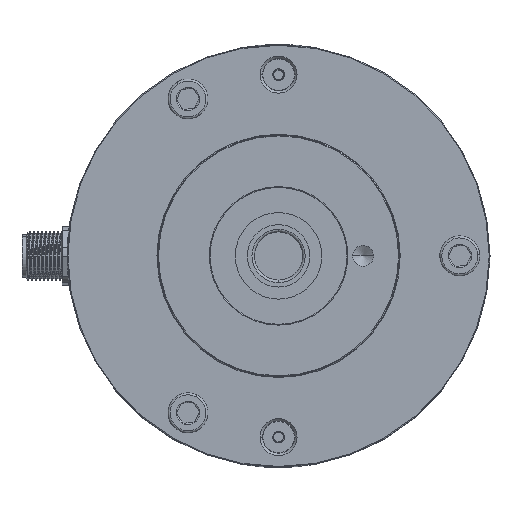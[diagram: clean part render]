
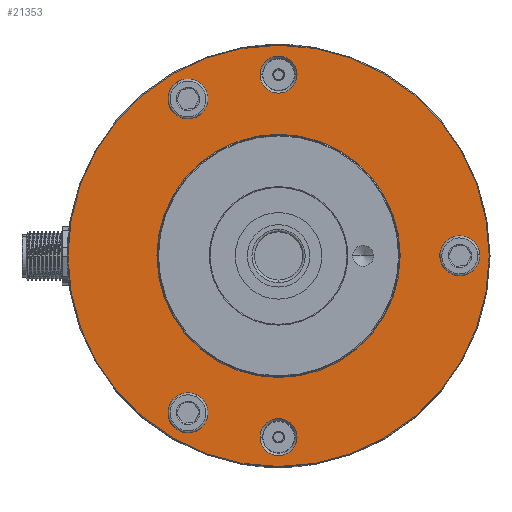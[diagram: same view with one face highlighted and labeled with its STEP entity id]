
A CAD part, top view. The second image highlights one B-rep face of the part: STEP entity #21353.
In plain terms, the highlighted planar face has unit normal (0, 0, 1).
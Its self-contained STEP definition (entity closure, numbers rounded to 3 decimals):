
#2265 = EDGE_LOOP ( 'NONE', ( #2951, #3146 ) ) ;
#2924 = ORIENTED_EDGE ( 'NONE', *, *, #14646, .T. ) ;
#2926 = ORIENTED_EDGE ( 'NONE', *, *, #9297, .T. ) ;
#2951 = ORIENTED_EDGE ( 'NONE', *, *, #14624, .T. ) ;
#3130 = ORIENTED_EDGE ( 'NONE', *, *, #9296, .T. ) ;
#3146 = ORIENTED_EDGE ( 'NONE', *, *, #9298, .T. ) ;
#3161 = ORIENTED_EDGE ( 'NONE', *, *, #14648, .T. ) ;
#3284 = ORIENTED_EDGE ( 'NONE', *, *, #14651, .T. ) ;
#3290 = ORIENTED_EDGE ( 'NONE', *, *, #14623, .T. ) ;
#3725 = CIRCLE ( 'NONE', #23338, 4.59 ) ;
#3729 = CIRCLE ( 'NONE', #23339, 4.59 ) ;
#3730 = CIRCLE ( 'NONE', #23340, 52.3 ) ;
#3733 = CIRCLE ( 'NONE', #23341, 30.2 ) ;
#3734 = CIRCLE ( 'NONE', #23342, 3.3 ) ;
#3736 = CIRCLE ( 'NONE', #23343, 3.3 ) ;
#7051 = CARTESIAN_POINT ( 'NONE',  ( -30.2, 0., -3. ) ) ;
#7052 = CARTESIAN_POINT ( 'NONE',  ( 4.59, -45., -3. ) ) ;
#7054 = CARTESIAN_POINT ( 'NONE',  ( 30.2, 0., -3. ) ) ;
#7055 = CARTESIAN_POINT ( 'NONE',  ( -19.2, 38.971, -3. ) ) ;
#7061 = CARTESIAN_POINT ( 'NONE',  ( -19.2, -38.971, -3. ) ) ;
#7063 = CARTESIAN_POINT ( 'NONE',  ( -25.8, 38.971, -3. ) ) ;
#7068 = CARTESIAN_POINT ( 'NONE',  ( 52.3, 0., -3. ) ) ;
#7069 = CARTESIAN_POINT ( 'NONE',  ( -25.8, -38.971, -3. ) ) ;
#7079 = CARTESIAN_POINT ( 'NONE',  ( 41.7, 0., -3. ) ) ;
#7087 = CARTESIAN_POINT ( 'NONE',  ( -4.59, -45., -3. ) ) ;
#7091 = CARTESIAN_POINT ( 'NONE',  ( -52.3, 0., -3. ) ) ;
#7113 = CARTESIAN_POINT ( 'NONE',  ( 48.3, 0., -3. ) ) ;
#7520 = CARTESIAN_POINT ( 'NONE',  ( 0., 45., -3. ) ) ;
#7521 = DIRECTION ( 'NONE',  ( 0., 0., 1. ) ) ;
#7523 = DIRECTION ( 'NONE',  ( 1., 0., 0. ) ) ;
#7525 = CARTESIAN_POINT ( 'NONE',  ( 0., -45., -3. ) ) ;
#7526 = DIRECTION ( 'NONE',  ( 0., 0., 1. ) ) ;
#7527 = DIRECTION ( 'NONE',  ( 1., 0., 0. ) ) ;
#7529 = CARTESIAN_POINT ( 'NONE',  ( 0., 0., -3. ) ) ;
#7530 = DIRECTION ( 'NONE',  ( 0., 0., 1. ) ) ;
#7531 = DIRECTION ( 'NONE',  ( -1., 0., 0. ) ) ;
#7534 = CARTESIAN_POINT ( 'NONE',  ( 0., 0., -3. ) ) ;
#7535 = DIRECTION ( 'NONE',  ( 0., 0., -1. ) ) ;
#7536 = DIRECTION ( 'NONE',  ( -1., 0., 0. ) ) ;
#7537 = CARTESIAN_POINT ( 'NONE',  ( 45., 0., -3. ) ) ;
#7538 = DIRECTION ( 'NONE',  ( 0., 0., -1. ) ) ;
#7539 = DIRECTION ( 'NONE',  ( -1., 0., 0. ) ) ;
#7540 = CARTESIAN_POINT ( 'NONE',  ( -22.5, 38.971, -3. ) ) ;
#7541 = DIRECTION ( 'NONE',  ( 0., 0., -1. ) ) ;
#7542 = DIRECTION ( 'NONE',  ( -1., 0., 0. ) ) ;
#9009 = VERTEX_POINT ( 'NONE', #7051 ) ;
#9010 = VERTEX_POINT ( 'NONE', #7052 ) ;
#9012 = VERTEX_POINT ( 'NONE', #7054 ) ;
#9014 = VERTEX_POINT ( 'NONE', #7055 ) ;
#9021 = VERTEX_POINT ( 'NONE', #7061 ) ;
#9025 = VERTEX_POINT ( 'NONE', #7063 ) ;
#9032 = VERTEX_POINT ( 'NONE', #7068 ) ;
#9034 = VERTEX_POINT ( 'NONE', #7069 ) ;
#9103 = VERTEX_POINT ( 'NONE', #7079 ) ;
#9108 = VERTEX_POINT ( 'NONE', #7087 ) ;
#9124 = VERTEX_POINT ( 'NONE', #7091 ) ;
#9180 = VERTEX_POINT ( 'NONE', #7113 ) ;
#9291 = EDGE_CURVE ( 'NONE', #12746, #12754, #3725, .T. ) ;
#9293 = EDGE_CURVE ( 'NONE', #9010, #9108, #3729, .T. ) ;
#9294 = EDGE_CURVE ( 'NONE', #9124, #9032, #3730, .T. ) ;
#9296 = EDGE_CURVE ( 'NONE', #9009, #9012, #3733, .T. ) ;
#9297 = EDGE_CURVE ( 'NONE', #9103, #9180, #3734, .T. ) ;
#9298 = EDGE_CURVE ( 'NONE', #9025, #9014, #3736, .T. ) ;
#10480 = EDGE_LOOP ( 'NONE', ( #12647, #12778 ) ) ;
#10519 = EDGE_LOOP ( 'NONE', ( #12786, #12565 ) ) ;
#12565 = ORIENTED_EDGE ( 'NONE', *, *, #14626, .T. ) ;
#12647 = ORIENTED_EDGE ( 'NONE', *, *, #9291, .F. ) ;
#12677 = ORIENTED_EDGE ( 'NONE', *, *, #14596, .F. ) ;
#12746 = VERTEX_POINT ( 'NONE', #16590 ) ;
#12754 = VERTEX_POINT ( 'NONE', #16583 ) ;
#12778 = ORIENTED_EDGE ( 'NONE', *, *, #14578, .F. ) ;
#12784 = ORIENTED_EDGE ( 'NONE', *, *, #9293, .F. ) ;
#12786 = ORIENTED_EDGE ( 'NONE', *, *, #9294, .T. ) ;
#14578 = EDGE_CURVE ( 'NONE', #12754, #12746, #18836, .T. ) ;
#14596 = EDGE_CURVE ( 'NONE', #9108, #9010, #18865, .T. ) ;
#14623 = EDGE_CURVE ( 'NONE', #9012, #9009, #18896, .T. ) ;
#14624 = EDGE_CURVE ( 'NONE', #9014, #9025, #18898, .T. ) ;
#14626 = EDGE_CURVE ( 'NONE', #9032, #9124, #18899, .T. ) ;
#14646 = EDGE_CURVE ( 'NONE', #9180, #9103, #18927, .T. ) ;
#14648 = EDGE_CURVE ( 'NONE', #9034, #9021, #18929, .T. ) ;
#14651 = EDGE_CURVE ( 'NONE', #9021, #9034, #18933, .T. ) ;
#15012 = EDGE_LOOP ( 'NONE', ( #3284, #3161 ) ) ;
#15054 = EDGE_LOOP ( 'NONE', ( #12784, #12677 ) ) ;
#15104 = EDGE_LOOP ( 'NONE', ( #2924, #2926 ) ) ;
#15188 = EDGE_LOOP ( 'NONE', ( #3130, #3290 ) ) ;
#16583 = CARTESIAN_POINT ( 'NONE',  ( -4.59, 45., -3. ) ) ;
#16590 = CARTESIAN_POINT ( 'NONE',  ( 4.59, 45., -3. ) ) ;
#18836 = CIRCLE ( 'NONE', #20732, 4.59 ) ;
#18865 = CIRCLE ( 'NONE', #20743, 4.59 ) ;
#18896 = CIRCLE ( 'NONE', #20758, 30.2 ) ;
#18898 = CIRCLE ( 'NONE', #20759, 3.3 ) ;
#18899 = CIRCLE ( 'NONE', #20760, 52.3 ) ;
#18927 = CIRCLE ( 'NONE', #20772, 3.3 ) ;
#18929 = CIRCLE ( 'NONE', #20774, 3.3 ) ;
#18933 = CIRCLE ( 'NONE', #20776, 3.3 ) ;
#20732 = AXIS2_PLACEMENT_3D ( 'NONE', #24464, #24465, #24466 ) ;
#20743 = AXIS2_PLACEMENT_3D ( 'NONE', #24512, #24513, #24514 ) ;
#20758 = AXIS2_PLACEMENT_3D ( 'NONE', #24571, #24572, #24573 ) ;
#20759 = AXIS2_PLACEMENT_3D ( 'NONE', #24576, #24577, #24578 ) ;
#20760 = AXIS2_PLACEMENT_3D ( 'NONE', #24580, #24581, #24582 ) ;
#20772 = AXIS2_PLACEMENT_3D ( 'NONE', #24629, #24630, #24631 ) ;
#20774 = AXIS2_PLACEMENT_3D ( 'NONE', #24637, #24638, #24639 ) ;
#20776 = AXIS2_PLACEMENT_3D ( 'NONE', #24644, #24645, #24646 ) ;
#20880 = AXIS2_PLACEMENT_3D ( 'NONE', #25382, #25377, #25383 ) ;
#21353 = ADVANCED_FACE ( 'NONE', ( #25796, #25802, #25798, #25794, #25800, #25803, #25804 ), #25380, .F. ) ;
#23338 = AXIS2_PLACEMENT_3D ( 'NONE', #7520, #7521, #7523 ) ;
#23339 = AXIS2_PLACEMENT_3D ( 'NONE', #7525, #7526, #7527 ) ;
#23340 = AXIS2_PLACEMENT_3D ( 'NONE', #7529, #7530, #7531 ) ;
#23341 = AXIS2_PLACEMENT_3D ( 'NONE', #7534, #7535, #7536 ) ;
#23342 = AXIS2_PLACEMENT_3D ( 'NONE', #7537, #7538, #7539 ) ;
#23343 = AXIS2_PLACEMENT_3D ( 'NONE', #7540, #7541, #7542 ) ;
#24464 = CARTESIAN_POINT ( 'NONE',  ( 0., 45., -3. ) ) ;
#24465 = DIRECTION ( 'NONE',  ( 0., 0., 1. ) ) ;
#24466 = DIRECTION ( 'NONE',  ( 1., 0., 0. ) ) ;
#24512 = CARTESIAN_POINT ( 'NONE',  ( 0., -45., -3. ) ) ;
#24513 = DIRECTION ( 'NONE',  ( 0., 0., 1. ) ) ;
#24514 = DIRECTION ( 'NONE',  ( 1., 0., 0. ) ) ;
#24571 = CARTESIAN_POINT ( 'NONE',  ( 0., 0., -3. ) ) ;
#24572 = DIRECTION ( 'NONE',  ( 0., 0., -1. ) ) ;
#24573 = DIRECTION ( 'NONE',  ( -1., 0., 0. ) ) ;
#24576 = CARTESIAN_POINT ( 'NONE',  ( -22.5, 38.971, -3. ) ) ;
#24577 = DIRECTION ( 'NONE',  ( 0., 0., -1. ) ) ;
#24578 = DIRECTION ( 'NONE',  ( -1., 0., 0. ) ) ;
#24580 = CARTESIAN_POINT ( 'NONE',  ( 0., 0., -3. ) ) ;
#24581 = DIRECTION ( 'NONE',  ( 0., 0., 1. ) ) ;
#24582 = DIRECTION ( 'NONE',  ( -1., 0., 0. ) ) ;
#24629 = CARTESIAN_POINT ( 'NONE',  ( 45., 0., -3. ) ) ;
#24630 = DIRECTION ( 'NONE',  ( 0., 0., -1. ) ) ;
#24631 = DIRECTION ( 'NONE',  ( -1., 0., 0. ) ) ;
#24637 = CARTESIAN_POINT ( 'NONE',  ( -22.5, -38.971, -3. ) ) ;
#24638 = DIRECTION ( 'NONE',  ( 0., 0., -1. ) ) ;
#24639 = DIRECTION ( 'NONE',  ( -1., 0., 0. ) ) ;
#24644 = CARTESIAN_POINT ( 'NONE',  ( -22.5, -38.971, -3. ) ) ;
#24645 = DIRECTION ( 'NONE',  ( 0., 0., -1. ) ) ;
#24646 = DIRECTION ( 'NONE',  ( -1., 0., 0. ) ) ;
#25377 = DIRECTION ( 'NONE',  ( 0., 0., -1. ) ) ;
#25380 = PLANE ( 'NONE',  #20880 ) ;
#25382 = CARTESIAN_POINT ( 'NONE',  ( 0., 52.5, -3. ) ) ;
#25383 = DIRECTION ( 'NONE',  ( -1., 0., 0. ) ) ;
#25794 = FACE_BOUND ( 'NONE', #15188, .T. ) ;
#25796 = FACE_BOUND ( 'NONE', #15012, .T. ) ;
#25798 = FACE_BOUND ( 'NONE', #15104, .T. ) ;
#25800 = FACE_OUTER_BOUND ( 'NONE', #10519, .T. ) ;
#25802 = FACE_BOUND ( 'NONE', #2265, .T. ) ;
#25803 = FACE_BOUND ( 'NONE', #15054, .T. ) ;
#25804 = FACE_BOUND ( 'NONE', #10480, .T. ) ;
